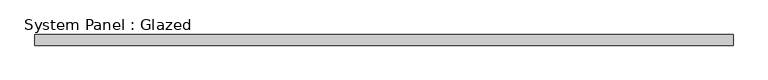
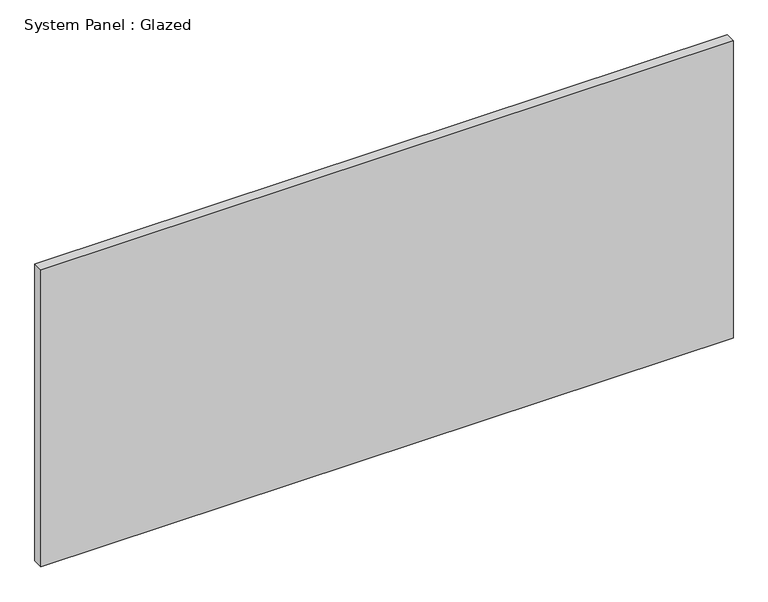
"""IFC4 building model written with IfcOpenShell, lengths in millimetres: plate geometry, System Panel : Glazed."""

from ifc_helpers import new_model, si_unit, origin, origin_with_axes, place, context, project, spatial, polyline, outline, extrude, source, transform, mapped, element, save


def system_panel_glazed_d8fdeaf9(model_context):
    return source(origin(), model_context, "Body", "SweptSolid", [
        extrude(outline(polyline([(835.4173679, 19.05), (-835.4173679, 19.05), (-835.4173679, 44.45), (835.4173679, 44.45), (835.4173679, 19.05)])), origin_with_axes(), (0.0, 0.0, 1.0), 758.2776451),
    ])


if __name__ == "__main__":
    model = new_model("IFC4")
    model_context = context("Model", 3, world=origin())
    ifc_project = project(units=[si_unit("LENGTHUNIT", "METRE", prefix="MILLI")], contexts=[model_context])
    site = spatial("IfcSite", under=ifc_project)
    building = spatial("IfcBuilding", under=site)
    placement = place(None, origin())
    system_panel_glazed_shape = system_panel_glazed_d8fdeaf9(model_context)
    element("IfcPlate", 1, ObjectType="System Panel : Glazed", at=placement, inside=building, context=model_context, shape_type="MappedRepresentation", body=[
        mapped(system_panel_glazed_shape, transform((0.0, 0.0, 0.0), x_axis=(1.0, 0.0, 0.0), y_axis=(0.0, 1.0, 0.0), z_axis=(0.0, 0.0, 1.0))),
    ])
    save(model, "model.ifc")
